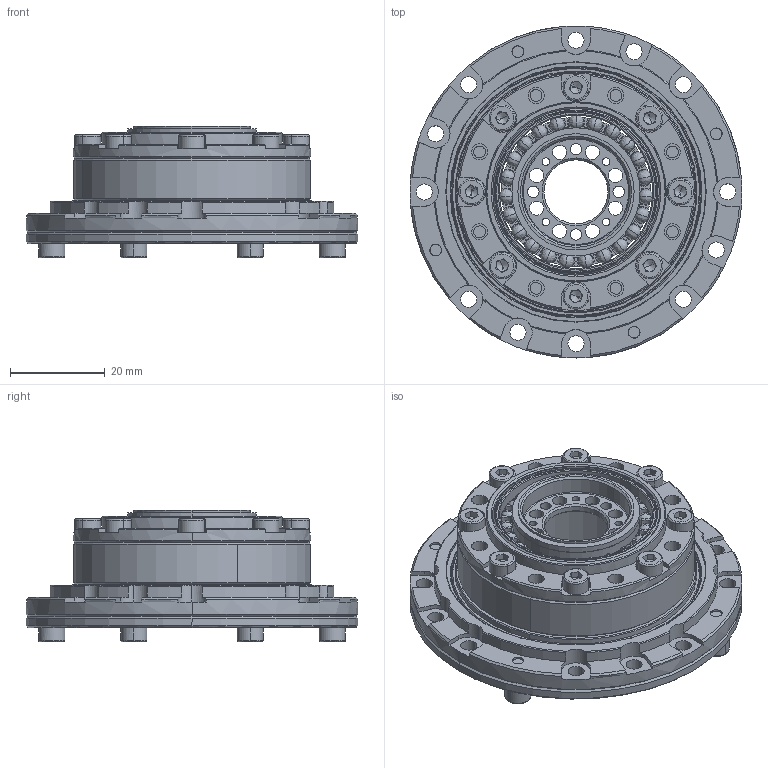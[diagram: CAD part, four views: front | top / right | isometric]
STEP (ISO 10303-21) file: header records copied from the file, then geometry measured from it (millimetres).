
FILE_DESCRIPTION (( 'STEP AP203' ), '1' );
FILE_NAME ('LHSG-14-XXX-C-I-RWL-D0.STEP', '2025-06-21T08:39:53', ( '' ), ( '' ), 'SwSTEP 2.0', 'SolidWorks 2013', '' );
FILE_SCHEMA (( 'CONFIG_CONTROL_DESIGN' ));
Length unit declared in the file: millimetre
Products named in the file (1): LHSG-14-XXX-C-I-RWL-D0
Bounding box: 70 x 70 x 27.8 mm (x, y, z)
Volume: 30468.3 mm3; surface area: 34101.6 mm2
Topology: 27 solids, 41 shells, 1132 faces, 2729 edges, 1659 vertices
Faces by surface type: cylinder 446, plane 430, cone 126, bspline 68, torus 62
Entity records: 34353 total; most frequent: CARTESIAN_POINT 7491, DIRECTION 6166, ORIENTED_EDGE 5226, EDGE_CURVE 2613, AXIS2_PLACEMENT_3D 2570, VERTEX_POINT 1659, CIRCLE 1505, EDGE_LOOP 1320
